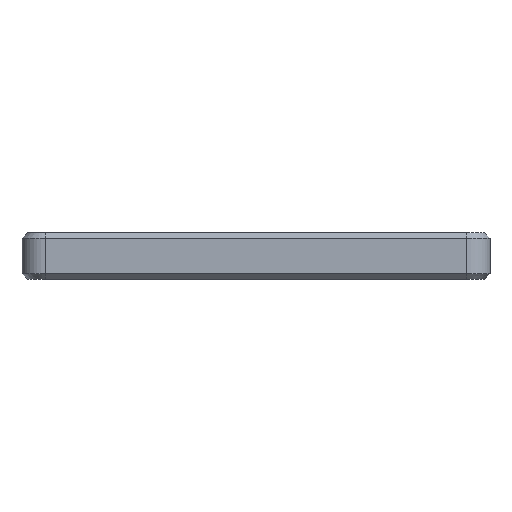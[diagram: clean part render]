
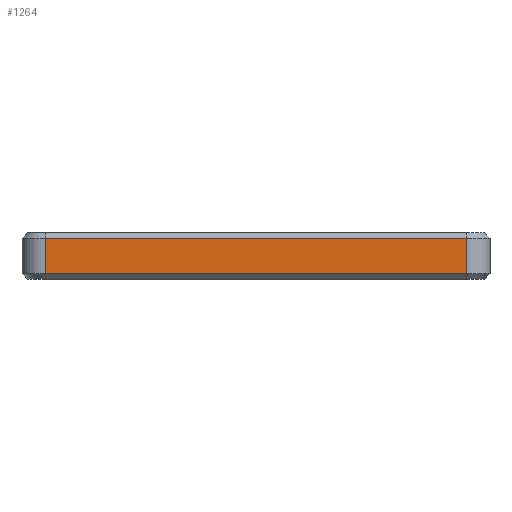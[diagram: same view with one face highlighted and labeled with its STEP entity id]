
A CAD part, left-side view. The second image highlights one B-rep face of the part: STEP entity #1264.
In plain terms, the highlighted planar face has unit normal (-1, 0, 0).
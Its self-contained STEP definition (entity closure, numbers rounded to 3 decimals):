
#58 = DIRECTION ( 'NONE',  ( 0., -1., 0. ) ) ;
#68 = EDGE_CURVE ( 'NONE', #806, #993, #1026, .T. ) ;
#73 = CARTESIAN_POINT ( 'NONE',  ( -10., -28., 2. ) ) ;
#167 = VECTOR ( 'NONE', #295, 1000. ) ;
#180 = FACE_OUTER_BOUND ( 'NONE', #657, .T. ) ;
#197 = LINE ( 'NONE', #613, #167 ) ;
#284 = VERTEX_POINT ( 'NONE', #856 ) ;
#288 = VERTEX_POINT ( 'NONE', #945 ) ;
#295 = DIRECTION ( 'NONE',  ( 0., 0., -1. ) ) ;
#296 = PLANE ( 'NONE',  #462 ) ;
#330 = CARTESIAN_POINT ( 'NONE',  ( -10., -28., 1.5 ) ) ;
#332 = VECTOR ( 'NONE', #58, 1000. ) ;
#416 = CARTESIAN_POINT ( 'NONE',  ( -10., 8., 1.5 ) ) ;
#462 = AXIS2_PLACEMENT_3D ( 'NONE', #706, #1025, #1199 ) ;
#474 = LINE ( 'NONE', #479, #332 ) ;
#479 = CARTESIAN_POINT ( 'NONE',  ( -10., 10., -1.5 ) ) ;
#551 = EDGE_CURVE ( 'NONE', #288, #284, #474, .T. ) ;
#553 = DIRECTION ( 'NONE',  ( 0., 0., 1. ) ) ;
#613 = CARTESIAN_POINT ( 'NONE',  ( -10., 8., 2. ) ) ;
#635 = EDGE_CURVE ( 'NONE', #993, #288, #197, .T. ) ;
#648 = ORIENTED_EDGE ( 'NONE', *, *, #1009, .T. ) ;
#657 = EDGE_LOOP ( 'NONE', ( #1292, #1006, #648, #779 ) ) ;
#706 = CARTESIAN_POINT ( 'NONE',  ( -10., 10., 2. ) ) ;
#710 = VECTOR ( 'NONE', #553, 1000. ) ;
#779 = ORIENTED_EDGE ( 'NONE', *, *, #68, .T. ) ;
#806 = VERTEX_POINT ( 'NONE', #330 ) ;
#856 = CARTESIAN_POINT ( 'NONE',  ( -10., -28., -1.5 ) ) ;
#944 = VECTOR ( 'NONE', #1222, 1000. ) ;
#945 = CARTESIAN_POINT ( 'NONE',  ( -10., 8., -1.5 ) ) ;
#986 = CARTESIAN_POINT ( 'NONE',  ( -10., 8., 1.5 ) ) ;
#993 = VERTEX_POINT ( 'NONE', #986 ) ;
#1006 = ORIENTED_EDGE ( 'NONE', *, *, #551, .T. ) ;
#1009 = EDGE_CURVE ( 'NONE', #284, #806, #1103, .T. ) ;
#1025 = DIRECTION ( 'NONE',  ( 1., 0., 0. ) ) ;
#1026 = LINE ( 'NONE', #416, #944 ) ;
#1103 = LINE ( 'NONE', #73, #710 ) ;
#1199 = DIRECTION ( 'NONE',  ( 0., 1., 0. ) ) ;
#1222 = DIRECTION ( 'NONE',  ( 0., 1., 0. ) ) ;
#1264 = ADVANCED_FACE ( 'NONE', ( #180 ), #296, .F. ) ;
#1292 = ORIENTED_EDGE ( 'NONE', *, *, #635, .T. ) ;
